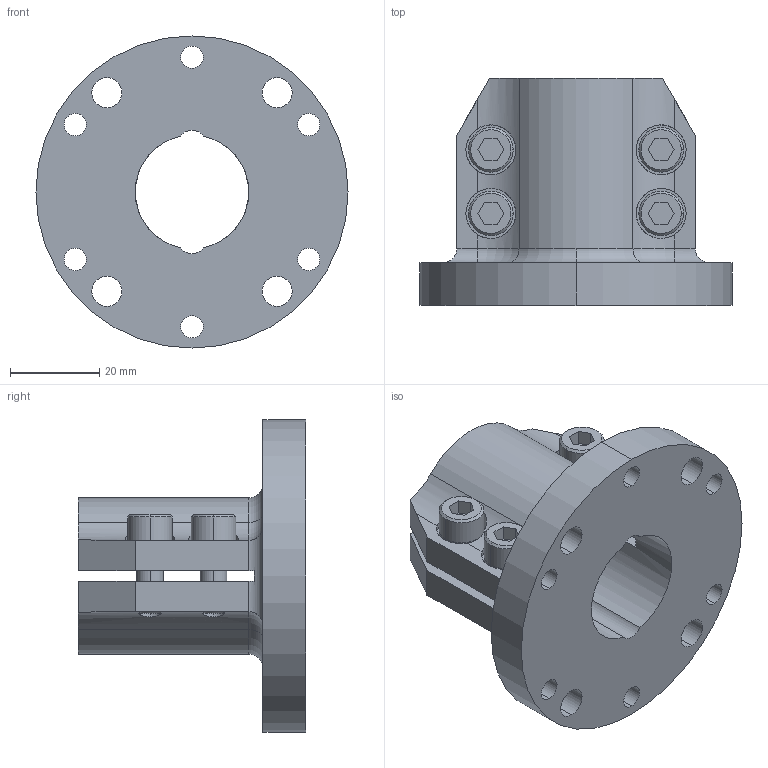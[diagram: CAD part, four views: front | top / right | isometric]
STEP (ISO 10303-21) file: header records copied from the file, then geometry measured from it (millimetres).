
FILE_DESCRIPTION (( 'STEP AP214' ), '1' );
FILE_NAME ('RTI-FCV-100-R.STEP', '2013-10-22T14:06:20', ( 'user' ), ( '' ), 'SwSTEP 2.0', 'SolidWorks 2009', '' );
FILE_SCHEMA (( 'AUTOMOTIVE_DESIGN' ));
Length unit declared in the file: inch
Products named in the file (4): RTI-FCV-100-R; M6 WASHER; M6 S.H.C.S._M6x16mm
Assembly tree (9 placements, depth 2):
  RTI-FCV-100-R
    M6 WASHER  x4
    M6 S.H.C.S._M6x16mm  x4
    RTI-FCV-100-R
Bounding box: 69.85 x 50.8 x 69.85 mm (x, y, z)
Volume: 59018.2 mm3; surface area: 25432.4 mm2
Topology: 9 solids, 9 shells, 504 faces, 1280 edges, 844 vertices
Faces by surface type: plane 291, cylinder 96, bspline 94, cone 16, torus 7
Entity records: 23787 total; most frequent: CARTESIAN_POINT 9294, ORIENTED_EDGE 2260, DIRECTION 1771, EDGE_CURVE 1130, LINE 765, VECTOR 765, VERTEX_POINT 748, EDGE_LOOP 516
